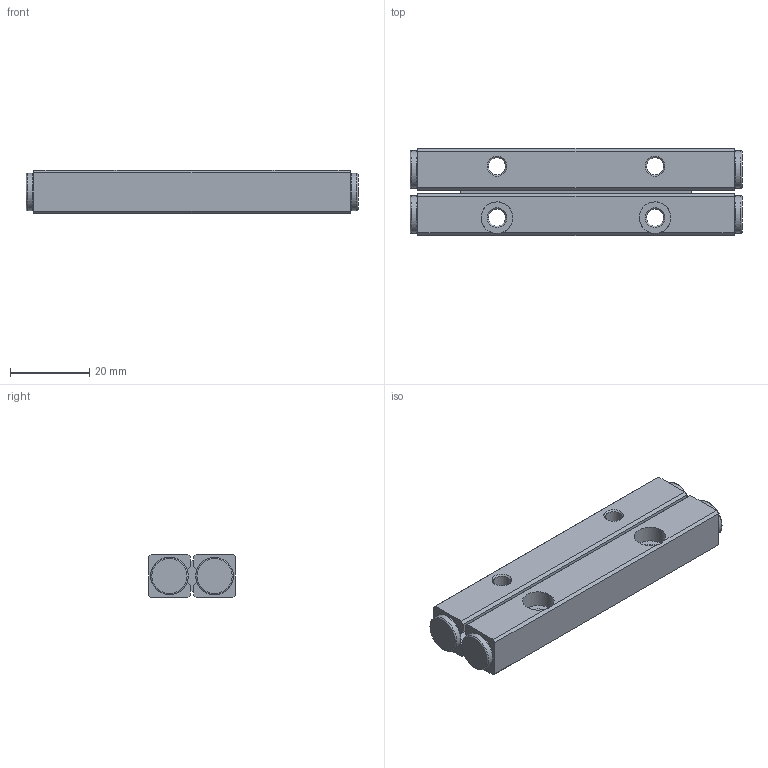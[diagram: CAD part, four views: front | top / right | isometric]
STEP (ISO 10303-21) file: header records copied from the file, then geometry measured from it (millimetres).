
FILE_DESCRIPTION(/* description */ ('STEP AP214'),/* implementation_level */ '2;1');
FILE_NAME(/* name */ 'VRG4M-80-Hx10Z (0)',/* time_stamp */ '2024-09-19T10:09:07+02:00',/* author */ ('License CC BY-ND 4.0'),/* organization */ ('CADENAS'),/* preprocessor_version */ 'ST-DEVELOPER v19.3',/* originating_system */ 'PARTsolutions',/* authorisation */ ' ');
FILE_SCHEMA (('AUTOMOTIVE_DESIGN {1 0 10303 214 3 1 1}'));
Length unit declared in the file: millimetre
Products named in the file (4): VRG4M-80-Hx10Z (0); VRG4M-80x10Z R1; VRG4M-80x10Z10C1; VRG4M-80x10Z R2
Assembly tree (3 placements, depth 2):
  VRG4M-80-Hx10Z (0)
    VRG4M-80x10Z R1
    VRG4M-80x10Z10C1
    VRG4M-80x10Z R2
Bounding box: 84 x 22 x 11 mm (x, y, z)
Volume: 17759.4 mm3; surface area: 9708.4 mm2
Topology: 3 solids, 3 shells, 258 faces, 958 edges, 626 vertices
Faces by surface type: plane 170, cylinder 52, cone 28, torus 8
Full cylindrical faces by diameter (mm): 4.3 x4, 8 x4, 9.5 x4
Entity records: 11397 total; most frequent: CARTESIAN_POINT 2090, ORIENTED_EDGE 1752, DIRECTION 1608, EDGE_CURVE 876, VERTEX_POINT 592, AXIS2_PLACEMENT_3D 590, LINE 428, VECTOR 428
